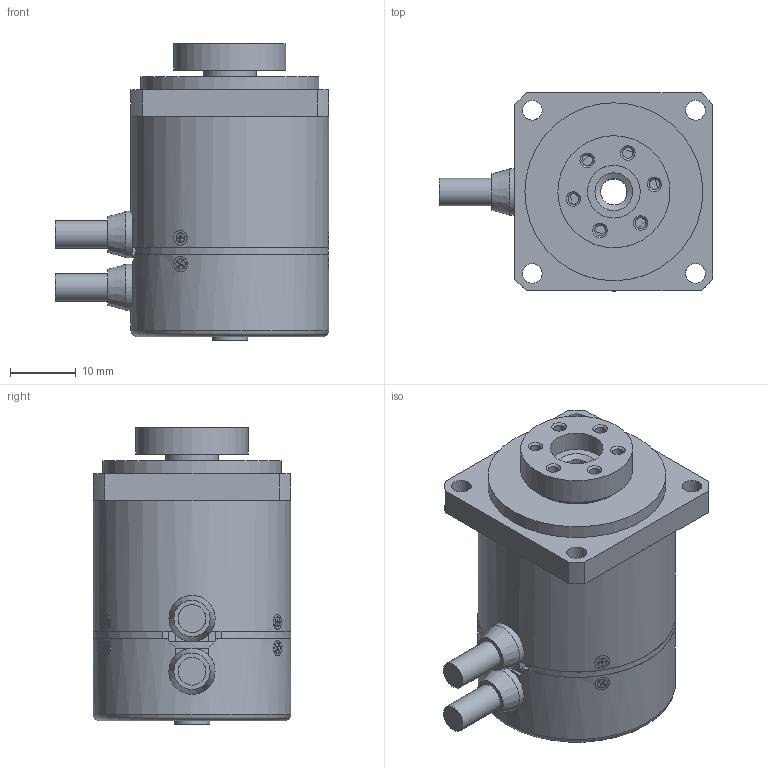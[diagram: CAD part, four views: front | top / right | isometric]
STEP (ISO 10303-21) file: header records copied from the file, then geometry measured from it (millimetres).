
FILE_DESCRIPTION(('STEP AP214'),'1');
FILE_NAME('MDH-3012.stp','2017-10-10T07:14:28',(' '),(' '),'Spatial InterOp 3D',' ',' ');
FILE_SCHEMA(('automotive_design'));
Length unit declared in the file: millimetre
Products named in the file (12): オイルシール; ケーブル; タッピングネジ M1.4x2.2; サラコネジ M1.4x2.5; ｱﾝｷﾞｭﾗﾍﾞｱﾘﾝｸﾞ MTA06-15; ブッシュ; カバー_H; ベース; シャフト_H3012; ケース_3012
Assembly tree (17 placements, depth 2):
  (unnamed)
    オイルシール
    ケーブル  x2
    タッピングネジ M1.4x2.2  x3
    サラコネジ M1.4x2.5  x3
    ｱﾝｷﾞｭﾗﾍﾞｱﾘﾝｸﾞ MTA06-15
    ｱﾝｷﾞｭﾗﾍﾞｱﾘﾝｸﾞ MTA06-15
    ブッシュ  x2
    カバー_H
    ベース
    シャフト_H3012
    ケース_3012
Bounding box: 41.49 x 30 x 45 mm (x, y, z)
Volume: 11551.4 mm3; surface area: 18597.6 mm2
Topology: 19 solids, 19 shells, 420 faces, 975 edges, 630 vertices
Faces by surface type: plane 218, cylinder 138, cone 45, torus 16, bspline 3
Full cylindrical faces by diameter (mm): 1.1 x15, 1.4 x12, 1.5 x3, 1.6 x9, 2.3 x6, 3 x4, 4 x1, 4.2 x4, 5.4 x2, 6 x5, 7 x2, 8 x2, 8.5 x2, 8.6 x6, 9.2 x2, 9.5 x1, 10 x2, 11.8 x2, 12 x1, 12.6 x2, 13 x1, 13.2 x6, 15 x4, 16 x1, 17 x1, 27 x2, 28 x1, 28.2 x1, 28.9 x1, 29 x1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
Entity records: 10915 total; most frequent: CARTESIAN_POINT 2043, DIRECTION 1354, ORIENTED_EDGE 1066, AXIS2_PLACEMENT_3D 560, EDGE_CURVE 533, EDGE_LOOP 485, VERTEX_POINT 409, FACE_OUTER_BOUND 379
